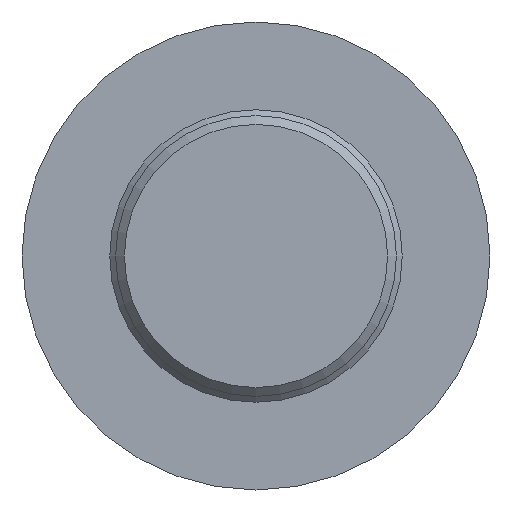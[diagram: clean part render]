
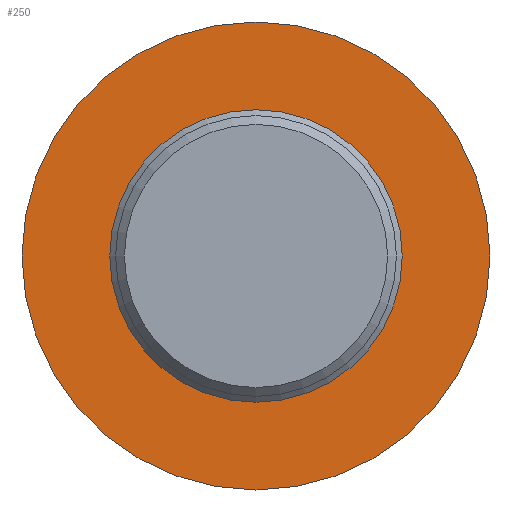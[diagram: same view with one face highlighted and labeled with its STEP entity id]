
A CAD part, front view. The second image highlights one B-rep face of the part: STEP entity #250.
In plain terms, the highlighted planar face has unit normal (0, -1, 0).
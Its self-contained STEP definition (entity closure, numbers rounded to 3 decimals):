
#17=FACE_BOUND('',#61,.T.);
#30=PLANE('',#303);
#43=FACE_OUTER_BOUND('',#60,.T.);
#60=EDGE_LOOP('',(#214,#215));
#61=EDGE_LOOP('',(#216,#217));
#100=CIRCLE('',#301,5.);
#101=CIRCLE('',#302,5.);
#102=CIRCLE('',#304,8.);
#103=CIRCLE('',#305,8.);
#126=VERTEX_POINT('',#456);
#127=VERTEX_POINT('',#457);
#128=VERTEX_POINT('',#462);
#129=VERTEX_POINT('',#463);
#157=EDGE_CURVE('',#126,#127,#100,.T.);
#158=EDGE_CURVE('',#127,#126,#101,.T.);
#160=EDGE_CURVE('',#128,#129,#102,.T.);
#161=EDGE_CURVE('',#129,#128,#103,.T.);
#214=ORIENTED_EDGE('',*,*,#160,.F.);
#215=ORIENTED_EDGE('',*,*,#161,.F.);
#216=ORIENTED_EDGE('',*,*,#157,.T.);
#217=ORIENTED_EDGE('',*,*,#158,.T.);
#250=ADVANCED_FACE('',(#43,#17),#30,.T.);
#301=AXIS2_PLACEMENT_3D('',#458,#375,#376);
#302=AXIS2_PLACEMENT_3D('',#459,#377,#378);
#303=AXIS2_PLACEMENT_3D('',#461,#380,#381);
#304=AXIS2_PLACEMENT_3D('',#464,#382,#383);
#305=AXIS2_PLACEMENT_3D('',#465,#384,#385);
#375=DIRECTION('center_axis',(0.,1.,0.));
#376=DIRECTION('ref_axis',(1.,0.,0.));
#377=DIRECTION('center_axis',(0.,1.,0.));
#378=DIRECTION('ref_axis',(1.,0.,0.));
#380=DIRECTION('center_axis',(0.,-1.,0.));
#381=DIRECTION('ref_axis',(0.,0.,-1.));
#382=DIRECTION('center_axis',(0.,1.,0.));
#383=DIRECTION('ref_axis',(1.,0.,0.));
#384=DIRECTION('center_axis',(0.,1.,0.));
#385=DIRECTION('ref_axis',(1.,0.,0.));
#456=CARTESIAN_POINT('',(0.,-439.,5.));
#457=CARTESIAN_POINT('',(0.,-439.,-5.));
#458=CARTESIAN_POINT('Origin',(0.,-439.,0.));
#459=CARTESIAN_POINT('Origin',(0.,-439.,0.));
#461=CARTESIAN_POINT('Origin',(0.,-439.,8.));
#462=CARTESIAN_POINT('',(0.,-439.,8.));
#463=CARTESIAN_POINT('',(0.,-439.,-8.));
#464=CARTESIAN_POINT('Origin',(0.,-439.,0.));
#465=CARTESIAN_POINT('Origin',(0.,-439.,0.));
